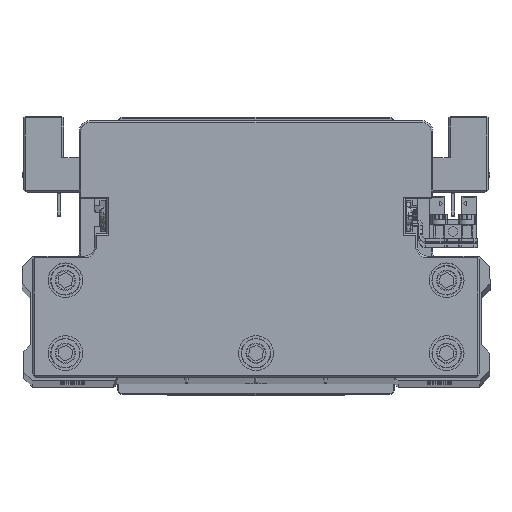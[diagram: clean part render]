
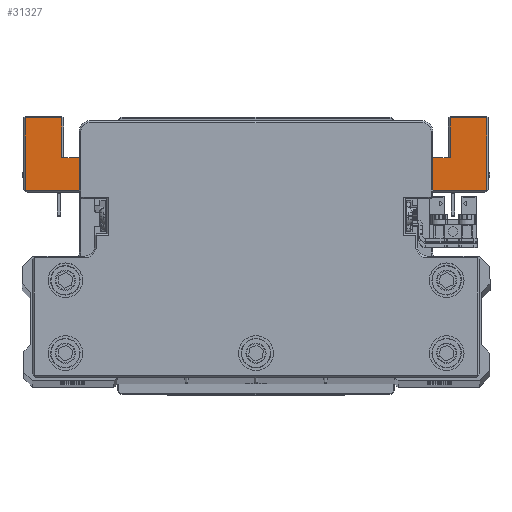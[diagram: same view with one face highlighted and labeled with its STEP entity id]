
A CAD part, top view. The second image highlights one B-rep face of the part: STEP entity #31327.
In plain terms, the highlighted planar face has unit normal (0, 0, 1) as drawn and (0, -1, 0) by its records, which use the part's own axes.
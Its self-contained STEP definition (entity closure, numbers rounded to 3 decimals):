
#503 = VERTEX_POINT ( 'NONE', #33679 ) ;
#801 = CARTESIAN_POINT ( 'NONE',  ( -55.5, -45., -64. ) ) ;
#1154 = CARTESIAN_POINT ( 'NONE',  ( 66.5, -45., -43. ) ) ;
#1273 = EDGE_CURVE ( 'NONE', #1684, #32527, #30685, .T. ) ;
#1397 = ORIENTED_EDGE ( 'NONE', *, *, #29994, .F. ) ;
#1684 = VERTEX_POINT ( 'NONE', #38617 ) ;
#2068 = VECTOR ( 'NONE', #34000, 1000. ) ;
#2309 = CARTESIAN_POINT ( 'NONE',  ( -56., -45., -64. ) ) ;
#2649 = ORIENTED_EDGE ( 'NONE', *, *, #14295, .T. ) ;
#2807 = CARTESIAN_POINT ( 'NONE',  ( 46., -45., -52.5 ) ) ;
#2912 = LINE ( 'NONE', #15408, #30501 ) ;
#4017 = ORIENTED_EDGE ( 'NONE', *, *, #23278, .T. ) ;
#4115 = VECTOR ( 'NONE', #6312, 1000. ) ;
#4696 = CARTESIAN_POINT ( 'NONE',  ( 66.5, -45., -43.5 ) ) ;
#5034 = VERTEX_POINT ( 'NONE', #38692 ) ;
#5192 = VERTEX_POINT ( 'NONE', #30491 ) ;
#5667 = LINE ( 'NONE', #18164, #20434 ) ;
#5950 = EDGE_LOOP ( 'NONE', ( #10452, #24518, #2649, #19852, #37466, #12729, #33013, #35377, #20271, #12615, #1397, #32963, #25772, #39373, #15869, #17957, #14289, #4017 ) ) ;
#6312 = DIRECTION ( 'NONE',  ( -1., 0., 0. ) ) ;
#6634 = DIRECTION ( 'NONE',  ( 1., 0., 0. ) ) ;
#6992 = DIRECTION ( 'NONE',  ( 0., 0., -1. ) ) ;
#7100 = DIRECTION ( 'NONE',  ( 0., 0., 1. ) ) ;
#7403 = CARTESIAN_POINT ( 'NONE',  ( -77.786, -45., -42.5 ) ) ;
#8108 = CARTESIAN_POINT ( 'NONE',  ( 40.066, -45., -41.5 ) ) ;
#8376 = CARTESIAN_POINT ( 'NONE',  ( 46., -45., -54. ) ) ;
#8558 = EDGE_CURVE ( 'NONE', #16083, #37199, #9004, .T. ) ;
#8854 = DIRECTION ( 'NONE',  ( -0.991, 0., -0.132 ) ) ;
#8865 = LINE ( 'NONE', #21367, #32445 ) ;
#9004 = LINE ( 'NONE', #21505, #2068 ) ;
#9409 = VERTEX_POINT ( 'NONE', #39468 ) ;
#10072 = PLANE ( 'NONE',  #20616 ) ;
#10100 = VECTOR ( 'NONE', #12415, 1000. ) ;
#10355 = LINE ( 'NONE', #22852, #34307 ) ;
#10394 = VECTOR ( 'NONE', #23699, 1000. ) ;
#10452 = ORIENTED_EDGE ( 'NONE', *, *, #38057, .T. ) ;
#10762 = CARTESIAN_POINT ( 'NONE',  ( 36.217, -45., -42.5 ) ) ;
#11065 = CARTESIAN_POINT ( 'NONE',  ( 56., -45., -64.5 ) ) ;
#11195 = CARTESIAN_POINT ( 'NONE',  ( 25.802, -45., -41.111 ) ) ;
#11897 = EDGE_CURVE ( 'NONE', #26225, #29907, #28880, .T. ) ;
#12415 = DIRECTION ( 'NONE',  ( -1., 0., 0. ) ) ;
#12615 = ORIENTED_EDGE ( 'NONE', *, *, #19196, .T. ) ;
#12729 = ORIENTED_EDGE ( 'NONE', *, *, #11897, .T. ) ;
#12998 = AXIS2_PLACEMENT_3D ( 'NONE', #8108, #20630, #33127 ) ;
#13057 = VECTOR ( 'NONE', #8854, 1000. ) ;
#13298 = DIRECTION ( 'NONE',  ( 1., 0., 0. ) ) ;
#13907 = CARTESIAN_POINT ( 'NONE',  ( -40.066, -45., -41.5 ) ) ;
#14060 = VERTEX_POINT ( 'NONE', #15171 ) ;
#14289 = ORIENTED_EDGE ( 'NONE', *, *, #1273, .T. ) ;
#14295 = EDGE_CURVE ( 'NONE', #17811, #16961, #14396, .T. ) ;
#14396 = CIRCLE ( 'NONE', #37337, 1.5 ) ;
#15171 = CARTESIAN_POINT ( 'NONE',  ( 46., -45., -54. ) ) ;
#15408 = CARTESIAN_POINT ( 'NONE',  ( 46., -45., -52.5 ) ) ;
#15639 = EDGE_CURVE ( 'NONE', #9409, #21823, #32775, .T. ) ;
#15710 = VERTEX_POINT ( 'NONE', #30102 ) ;
#15869 = ORIENTED_EDGE ( 'NONE', *, *, #15639, .T. ) ;
#15969 = VERTEX_POINT ( 'NONE', #16133 ) ;
#16011 = EDGE_CURVE ( 'NONE', #5034, #16083, #22697, .T. ) ;
#16083 = VERTEX_POINT ( 'NONE', #20032 ) ;
#16133 = CARTESIAN_POINT ( 'NONE',  ( 56., -45., -64. ) ) ;
#16237 = EDGE_CURVE ( 'NONE', #503, #26225, #5667, .T. ) ;
#16961 = VERTEX_POINT ( 'NONE', #24045 ) ;
#17197 = DIRECTION ( 'NONE',  ( 0., 0., 1. ) ) ;
#17490 = EDGE_CURVE ( 'NONE', #16961, #503, #21905, .T. ) ;
#17811 = VERTEX_POINT ( 'NONE', #26982 ) ;
#17816 = VECTOR ( 'NONE', #19919, 1000. ) ;
#17957 = ORIENTED_EDGE ( 'NONE', *, *, #30862, .T. ) ;
#18164 = CARTESIAN_POINT ( 'NONE',  ( -66.5, -45., -64.5 ) ) ;
#19196 = EDGE_CURVE ( 'NONE', #5034, #14060, #36489, .T. ) ;
#19852 = ORIENTED_EDGE ( 'NONE', *, *, #17490, .T. ) ;
#19919 = DIRECTION ( 'NONE',  ( -1., 0., 0. ) ) ;
#20032 = CARTESIAN_POINT ( 'NONE',  ( -46., -45., -52.5 ) ) ;
#20271 = ORIENTED_EDGE ( 'NONE', *, *, #16011, .F. ) ;
#20434 = VECTOR ( 'NONE', #30664, 1000. ) ;
#20616 = AXIS2_PLACEMENT_3D ( 'NONE', #22578, #35085, #6992 ) ;
#20630 = DIRECTION ( 'NONE',  ( 0., 1., 0. ) ) ;
#20886 = DIRECTION ( 'NONE',  ( 1., 0., 0. ) ) ;
#21367 = CARTESIAN_POINT ( 'NONE',  ( 55.5, -45., -52.5 ) ) ;
#21505 = CARTESIAN_POINT ( 'NONE',  ( -55.5, -45., -52.5 ) ) ;
#21823 = VERTEX_POINT ( 'NONE', #1154 ) ;
#21905 = LINE ( 'NONE', #34401, #4115 ) ;
#22209 = LINE ( 'NONE', #34706, #36318 ) ;
#22444 = EDGE_CURVE ( 'NONE', #5192, #17811, #24418, .T. ) ;
#22578 = CARTESIAN_POINT ( 'NONE',  ( 0., -45., 0. ) ) ;
#22697 = LINE ( 'NONE', #35190, #25005 ) ;
#22852 = CARTESIAN_POINT ( 'NONE',  ( -56., -45., -52.5 ) ) ;
#23278 = EDGE_CURVE ( 'NONE', #32527, #23667, #39296, .T. ) ;
#23572 = DIRECTION ( 'NONE',  ( 0., 0., -1. ) ) ;
#23667 = VERTEX_POINT ( 'NONE', #10762 ) ;
#23699 = DIRECTION ( 'NONE',  ( -0.991, 0., 0.132 ) ) ;
#24045 = CARTESIAN_POINT ( 'NONE',  ( -40.066, -45., -43. ) ) ;
#24320 = VECTOR ( 'NONE', #13298, 1000. ) ;
#24418 = LINE ( 'NONE', #36948, #13057 ) ;
#24518 = ORIENTED_EDGE ( 'NONE', *, *, #22444, .T. ) ;
#25005 = VECTOR ( 'NONE', #7100, 1000. ) ;
#25118 = VECTOR ( 'NONE', #23572, 1000. ) ;
#25194 = VECTOR ( 'NONE', #20886, 1000. ) ;
#25772 = ORIENTED_EDGE ( 'NONE', *, *, #34956, .T. ) ;
#26225 = VERTEX_POINT ( 'NONE', #28003 ) ;
#26430 = DIRECTION ( 'NONE',  ( 0., 1., 0. ) ) ;
#26982 = CARTESIAN_POINT ( 'NONE',  ( -39.868, -45., -42.987 ) ) ;
#27919 = DIRECTION ( 'NONE',  ( 0., 0., -1. ) ) ;
#28003 = CARTESIAN_POINT ( 'NONE',  ( -66.5, -45., -64. ) ) ;
#28011 = LINE ( 'NONE', #40523, #10100 ) ;
#28880 = LINE ( 'NONE', #801, #24320 ) ;
#29907 = VERTEX_POINT ( 'NONE', #2309 ) ;
#29957 = EDGE_CURVE ( 'NONE', #15710, #30821, #8865, .T. ) ;
#29994 = EDGE_CURVE ( 'NONE', #30821, #14060, #2912, .T. ) ;
#30102 = CARTESIAN_POINT ( 'NONE',  ( 56., -45., -52.5 ) ) ;
#30491 = CARTESIAN_POINT ( 'NONE',  ( -36.217, -45., -42.5 ) ) ;
#30501 = VECTOR ( 'NONE', #27919, 1000. ) ;
#30611 = CARTESIAN_POINT ( 'NONE',  ( -56., -45., -52.5 ) ) ;
#30664 = DIRECTION ( 'NONE',  ( 0., 0., -1. ) ) ;
#30685 = CIRCLE ( 'NONE', #12998, 1.5 ) ;
#30821 = VERTEX_POINT ( 'NONE', #2807 ) ;
#30862 = EDGE_CURVE ( 'NONE', #21823, #1684, #28011, .T. ) ;
#31327 = ADVANCED_FACE ( 'NONE', ( #38171 ), #10072, .T. ) ;
#32445 = VECTOR ( 'NONE', #33861, 1000. ) ;
#32527 = VERTEX_POINT ( 'NONE', #37029 ) ;
#32775 = LINE ( 'NONE', #4696, #35445 ) ;
#32963 = ORIENTED_EDGE ( 'NONE', *, *, #29957, .F. ) ;
#33013 = ORIENTED_EDGE ( 'NONE', *, *, #33881, .T. ) ;
#33127 = DIRECTION ( 'NONE',  ( 0., 0., -1. ) ) ;
#33679 = CARTESIAN_POINT ( 'NONE',  ( -66.5, -45., -43. ) ) ;
#33861 = DIRECTION ( 'NONE',  ( -1., 0., 0. ) ) ;
#33881 = EDGE_CURVE ( 'NONE', #29907, #37199, #10355, .T. ) ;
#34000 = DIRECTION ( 'NONE',  ( -1., 0., 0. ) ) ;
#34266 = EDGE_CURVE ( 'NONE', #15969, #9409, #22209, .T. ) ;
#34307 = VECTOR ( 'NONE', #35363, 1000. ) ;
#34401 = CARTESIAN_POINT ( 'NONE',  ( -66., -45., -43. ) ) ;
#34706 = CARTESIAN_POINT ( 'NONE',  ( 67., -45., -64. ) ) ;
#34956 = EDGE_CURVE ( 'NONE', #15710, #15969, #39167, .T. ) ;
#35085 = DIRECTION ( 'NONE',  ( 0., -1., 0. ) ) ;
#35190 = CARTESIAN_POINT ( 'NONE',  ( -46., -45., -52.5 ) ) ;
#35363 = DIRECTION ( 'NONE',  ( 0., 0., 1. ) ) ;
#35377 = ORIENTED_EDGE ( 'NONE', *, *, #8558, .F. ) ;
#35445 = VECTOR ( 'NONE', #17197, 1000. ) ;
#35486 = LINE ( 'NONE', #7403, #17816 ) ;
#36318 = VECTOR ( 'NONE', #6634, 1000. ) ;
#36489 = LINE ( 'NONE', #8376, #25194 ) ;
#36948 = CARTESIAN_POINT ( 'NONE',  ( -39.868, -45., -42.987 ) ) ;
#37029 = CARTESIAN_POINT ( 'NONE',  ( 39.868, -45., -42.987 ) ) ;
#37199 = VERTEX_POINT ( 'NONE', #30611 ) ;
#37337 = AXIS2_PLACEMENT_3D ( 'NONE', #13907, #26430, #38947 ) ;
#37466 = ORIENTED_EDGE ( 'NONE', *, *, #16237, .T. ) ;
#38057 = EDGE_CURVE ( 'NONE', #23667, #5192, #35486, .T. ) ;
#38171 = FACE_OUTER_BOUND ( 'NONE', #5950, .T. ) ;
#38617 = CARTESIAN_POINT ( 'NONE',  ( 40.066, -45., -43. ) ) ;
#38692 = CARTESIAN_POINT ( 'NONE',  ( -46., -45., -54. ) ) ;
#38947 = DIRECTION ( 'NONE',  ( 0., 0., -1. ) ) ;
#39167 = LINE ( 'NONE', #11065, #25118 ) ;
#39296 = LINE ( 'NONE', #11195, #10394 ) ;
#39373 = ORIENTED_EDGE ( 'NONE', *, *, #34266, .T. ) ;
#39468 = CARTESIAN_POINT ( 'NONE',  ( 66.5, -45., -64. ) ) ;
#40523 = CARTESIAN_POINT ( 'NONE',  ( 40.066, -45., -43. ) ) ;
